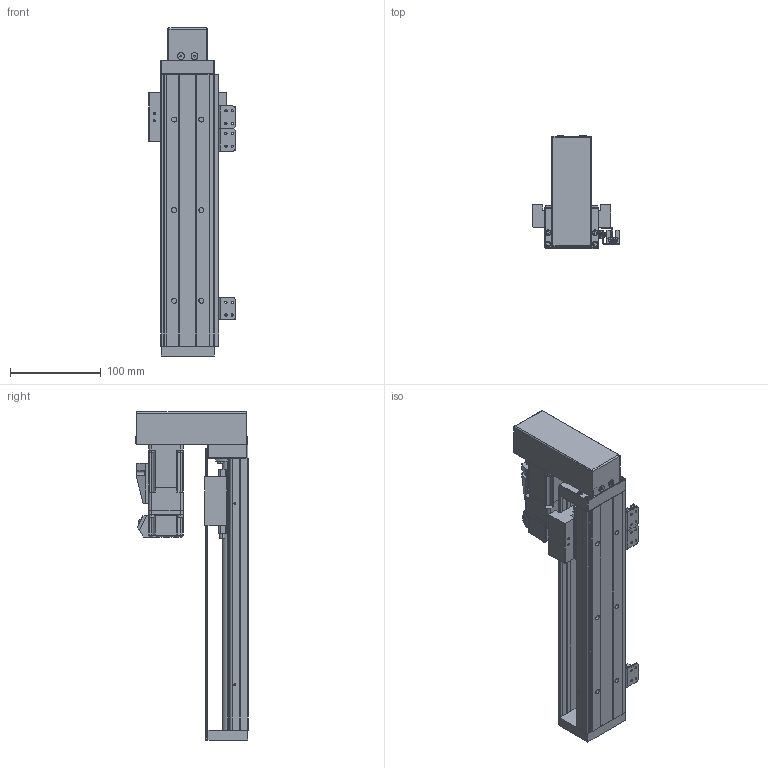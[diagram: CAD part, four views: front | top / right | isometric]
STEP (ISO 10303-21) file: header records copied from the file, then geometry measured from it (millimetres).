
FILE_DESCRIPTION (( 'STEP AP203' ), '1' );
FILE_NAME ('KH60D10C-300A1-H2WCS1.STEP', '2022-06-08T08:54:01', ( 'CXY' ), ( 'BT' ), 'SwSTEP 2.0', 'SolidWorks 2016', '' );
FILE_SCHEMA (( 'CONFIG_CONTROL_DESIGN' ));
Length unit declared in the file: millimetre
Products named in the file (25): KH86-08-(SX674); KH60-500; 蛌諉啣; 内六角圆柱头螺钉M3×18; 綴釱; 囀鞠褒麥芛蹟隊M3x5; KH86-08-SX674; KK60-02-03; 錨璃2; PM-Y65; KK60-02-01-H0_KK60-02-01-H0&H1; 216々湍; KK60-02-02; KH60-02-0000; 侂狟萇儂P10B; 鞠褒蹟譫M3; 晦埴芛M3X6蹟隊; B-KK60-A1-F0C; KK60-04-07; 内六角圆柱头螺钉M3×10; 囀鞠褒す埴芛蹟隊M3℅5; KH60D10C-300A1-H2WCS1; KK60-08-01; KK60-02-04; KK60-01-02-XXXX_KK60-01-02-150
Assembly tree (46 placements, depth 3):
  KH60D10C-300A1-H2WCS1
    KH60-500
    B-KK60-A1-F0C
      錨璃2
      蛌諉啣
    囀鞠褒麥芛蹟隊M3x5  x4
    綴釱
    KH86-08-SX674  x2
      KK60-08-01
      囀鞠褒す埴芛蹟隊M3℅5
      鞠褒蹟譫M3
    KH86-08-(SX674)
      KK60-08-01
      囀鞠褒す埴芛蹟隊M3℅5  x2
      鞠褒蹟譫M3  x2
    KK60-01-02-XXXX_KK60-01-02-150
    KH60-02-0000
      KK60-02-01-H0_KK60-02-01-H0&H1
      KK60-02-02
      KK60-02-03
      内六角圆柱头螺钉M3×18  x4
      侂狟萇儂P10B
      KK60-02-04
      216々湍
      内六角圆柱头螺钉M3×10  x4
      晦埴芛M3X6蹟隊  x4
    KK60-04-07
    PM-Y65  x3
Bounding box: 95.4 x 124.3 x 362 mm (x, y, z)
Volume: 686076.8 mm3; surface area: 264597 mm2
Topology: 48 solids, 48 shells, 2742 faces, 7108 edges, 4549 vertices
Faces by surface type: plane 1421, cylinder 640, cone 319, bspline 280, torus 70, sphere 12
Entity records: 66910 total; most frequent: CARTESIAN_POINT 16115, ORIENTED_EDGE 10324, DIRECTION 9065, EDGE_CURVE 5162, VERTEX_POINT 3383, LINE 3283, VECTOR 3283, AXIS2_PLACEMENT_3D 2891
